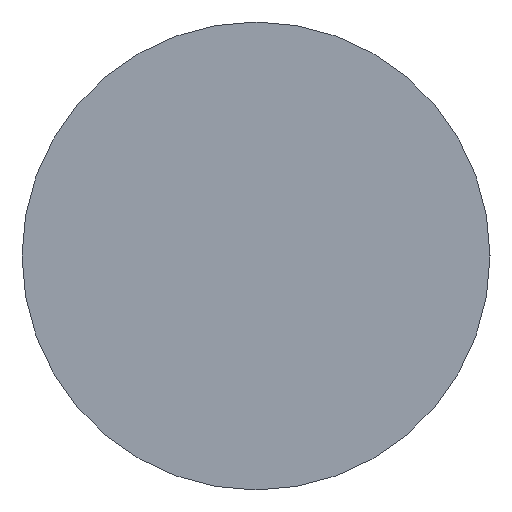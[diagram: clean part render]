
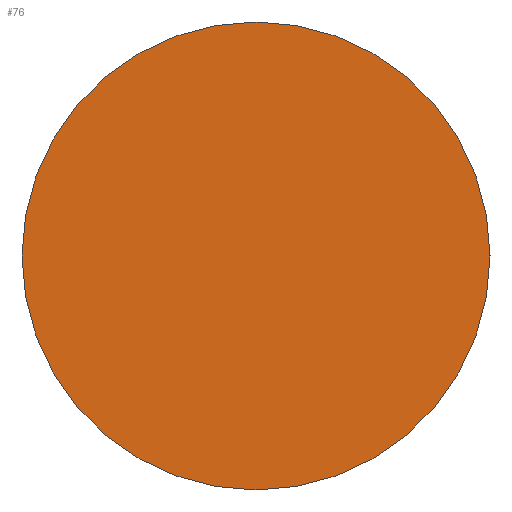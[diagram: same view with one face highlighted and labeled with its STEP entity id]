
A CAD part, left-side view. The second image highlights one B-rep face of the part: STEP entity #76.
In plain terms, the highlighted planar face has unit normal (-1, 0, 0).
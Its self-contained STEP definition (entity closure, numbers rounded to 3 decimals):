
#27 = ORIENTED_EDGE ( 'NONE', *, *, #259, .F. ) ;
#76 = ADVANCED_FACE ( 'NONE', ( #185 ), #134, .T. ) ;
#95 = CARTESIAN_POINT ( 'NONE',  ( 0., 0., 0. ) ) ;
#120 = AXIS2_PLACEMENT_3D ( 'NONE', #95, #223, #247 ) ;
#131 = VERTEX_POINT ( 'NONE', #265 ) ;
#134 = PLANE ( 'NONE',  #120 ) ;
#155 = ORIENTED_EDGE ( 'NONE', *, *, #216, .F. ) ;
#157 = CARTESIAN_POINT ( 'NONE',  ( 0., 0., 0. ) ) ;
#170 = CIRCLE ( 'NONE', #267, 9. ) ;
#182 = CIRCLE ( 'NONE', #201, 9. ) ;
#185 = FACE_OUTER_BOUND ( 'NONE', #269, .T. ) ;
#189 = DIRECTION ( 'NONE',  ( 1., 0., 0. ) ) ;
#190 = DIRECTION ( 'NONE',  ( 1., 0., 0. ) ) ;
#201 = AXIS2_PLACEMENT_3D ( 'NONE', #263, #189, #226 ) ;
#213 = VERTEX_POINT ( 'NONE', #250 ) ;
#216 = EDGE_CURVE ( 'NONE', #131, #213, #182, .T. ) ;
#223 = DIRECTION ( 'NONE',  ( -1., 0., 0. ) ) ;
#226 = DIRECTION ( 'NONE',  ( 0., 1., 0. ) ) ;
#247 = DIRECTION ( 'NONE',  ( 0., -1., 0. ) ) ;
#249 = DIRECTION ( 'NONE',  ( 0., 1., 0. ) ) ;
#250 = CARTESIAN_POINT ( 'NONE',  ( 0., -9., 0. ) ) ;
#259 = EDGE_CURVE ( 'NONE', #213, #131, #170, .T. ) ;
#263 = CARTESIAN_POINT ( 'NONE',  ( 0., 0., 0. ) ) ;
#265 = CARTESIAN_POINT ( 'NONE',  ( 0., 9., 0. ) ) ;
#267 = AXIS2_PLACEMENT_3D ( 'NONE', #157, #190, #249 ) ;
#269 = EDGE_LOOP ( 'NONE', ( #155, #27 ) ) ;
